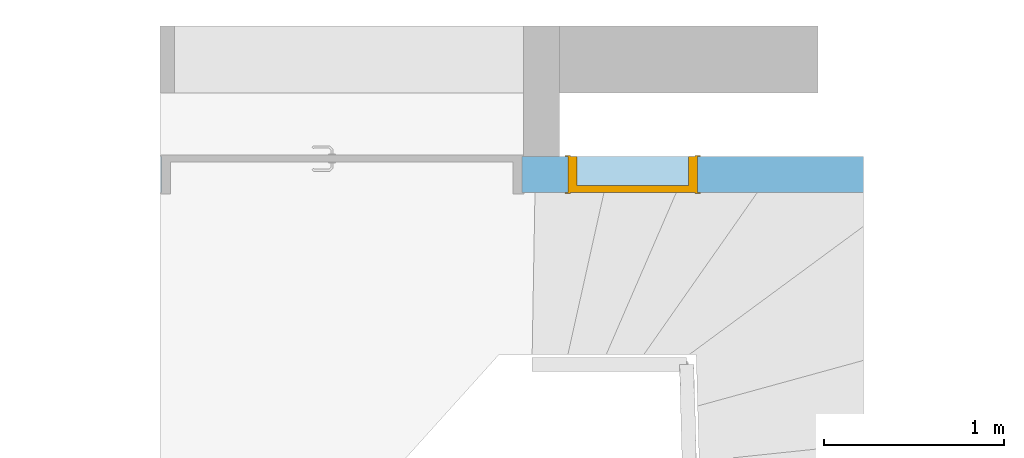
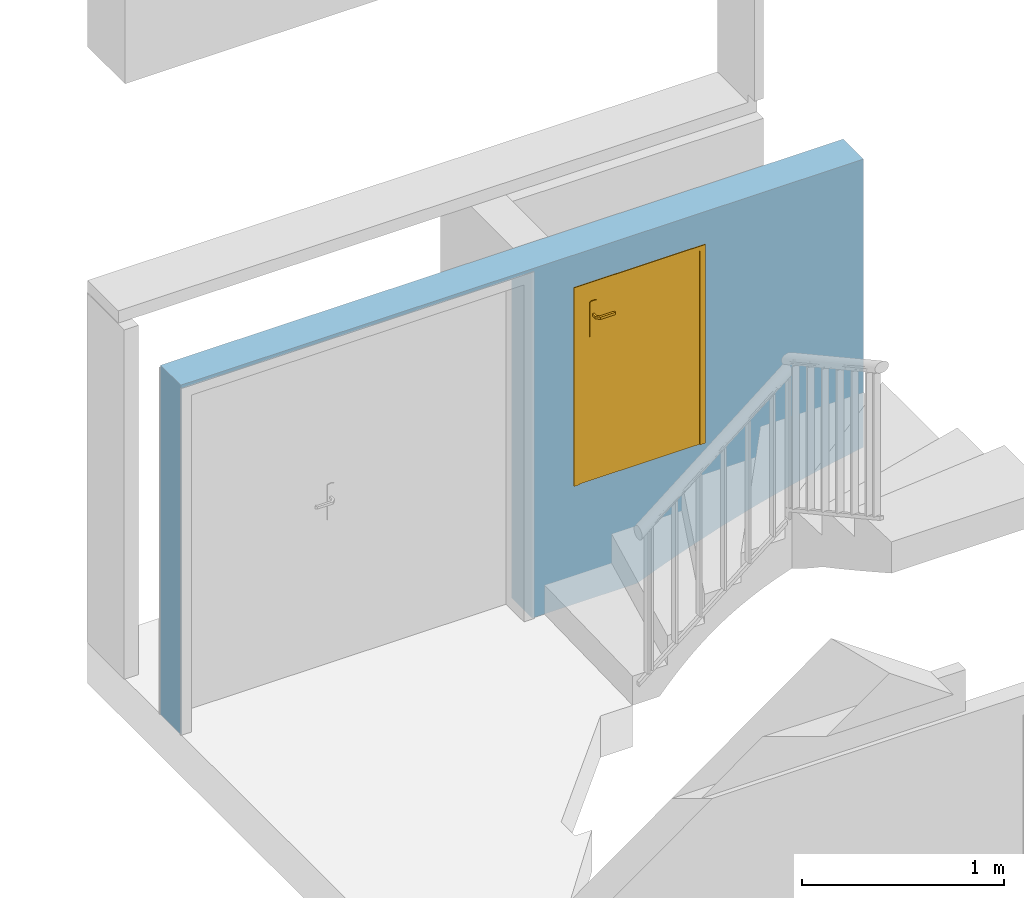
# One storey, part 6 of 13: 1 door, 2 openings, plus 1 element that does not belong to this part.
"""IFC4 building model written with IfcOpenShell, lengths in metres."""

from ifc_helpers import new_model, entity, si_unit, converted_unit, derived_unit, direction, frame, origin, place, context, subcontext, project, spatial, indexed_curve, outline, extrude, polygons, source, transform, mapped, material, material_list, layer, layer_set, constituent, constituent_set, type_object, type_shapes, element, fill, save


model = new_model("IFC4")

# Units and contexts
model_context = context("Model", 3, precision=1e-05, world=origin(), true_north=direction((6.12303176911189e-17, 1.0)))
body_context = subcontext(model_context, "Body", "Model", "MODEL_VIEW")
ifc_project = project(units=[si_unit("LENGTHUNIT", "METRE"), si_unit("AREAUNIT", "SQUARE_METRE"), si_unit("VOLUMEUNIT", "CUBIC_METRE"), converted_unit("PLANEANGLEUNIT", "DEGREE", entity("IfcRatioMeasure", 0.0174532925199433), si_unit("PLANEANGLEUNIT", "RADIAN"), dimensions=[0, 0, 0, 0, 0, 0, 0]), si_unit("MASSUNIT", "GRAM", prefix="KILO"), derived_unit("MASSDENSITYUNIT", [(si_unit("MASSUNIT", "GRAM", prefix="KILO"), 1), (si_unit("LENGTHUNIT", "METRE"), -3)]), derived_unit("MOMENTOFINERTIAUNIT", [(si_unit("LENGTHUNIT", "METRE"), 4)]), si_unit("TIMEUNIT", "SECOND"), si_unit("FREQUENCYUNIT", "HERTZ"), si_unit("THERMODYNAMICTEMPERATUREUNIT", "DEGREE_CELSIUS"), derived_unit("THERMALTRANSMITTANCEUNIT", [(si_unit("MASSUNIT", "GRAM", prefix="KILO"), 1), (si_unit("THERMODYNAMICTEMPERATUREUNIT", "KELVIN"), -1), (si_unit("TIMEUNIT", "SECOND"), -3)]), derived_unit("VOLUMETRICFLOWRATEUNIT", [(si_unit("LENGTHUNIT", "METRE"), 3), (si_unit("TIMEUNIT", "SECOND"), -1)]), si_unit("ELECTRICCURRENTUNIT", "AMPERE"), si_unit("ELECTRICVOLTAGEUNIT", "VOLT"), si_unit("POWERUNIT", "WATT"), si_unit("FORCEUNIT", "NEWTON", prefix="KILO"), si_unit("ILLUMINANCEUNIT", "LUX"), si_unit("LUMINOUSFLUXUNIT", "LUMEN"), si_unit("LUMINOUSINTENSITYUNIT", "CANDELA"), derived_unit("USERDEFINED", [(si_unit("MASSUNIT", "GRAM", prefix="KILO"), -1), (si_unit("LENGTHUNIT", "METRE"), -2), (si_unit("TIMEUNIT", "SECOND"), 3), (si_unit("LUMINOUSFLUXUNIT", "LUMEN"), 1)]), derived_unit("LINEARVELOCITYUNIT", [(si_unit("LENGTHUNIT", "METRE"), 1), (si_unit("TIMEUNIT", "SECOND"), -1)]), si_unit("PRESSUREUNIT", "PASCAL"), derived_unit("USERDEFINED", [(si_unit("LENGTHUNIT", "METRE"), -2), (si_unit("MASSUNIT", "GRAM", prefix="KILO"), 1), (si_unit("TIMEUNIT", "SECOND"), -2)]), derived_unit("LINEARFORCEUNIT", [(si_unit("MASSUNIT", "GRAM", prefix="KILO"), 1), (si_unit("LENGTHUNIT", "METRE"), 1), (si_unit("TIMEUNIT", "SECOND"), -2), (si_unit("LENGTHUNIT", "METRE"), -1)]), derived_unit("PLANARFORCEUNIT", [(si_unit("MASSUNIT", "GRAM", prefix="KILO"), 1), (si_unit("LENGTHUNIT", "METRE"), 1), (si_unit("TIMEUNIT", "SECOND"), -2), (si_unit("LENGTHUNIT", "METRE"), -2)])], contexts=[model_context])

# Site, building, storey
site_placement = place(None, origin())
site = spatial("IfcSite", under=ifc_project, at=site_placement, Name="Default", CompositionType="ELEMENT")
building_placement = place(site_placement, origin())
building = spatial("IfcBuilding", under=site, at=building_placement, Name="HOTEL CONSULAIRE BOULOGNE SUR MER", CompositionType="ELEMENT")
storey_placement = place(building_placement, frame((0.0, 0.0, -1.40419978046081)))
storey = spatial("IfcBuildingStorey", under=building, at=storey_placement, Name="Demi-niveau", CompositionType="ELEMENT", Elevation=-1.40419978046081)

# Wall, openings, door
ifc_material_1 = material(Name="Mur par défaut", Category="Divers")
ifc_layer = layer(ifc_material_1, 0.2, Name="Mur par défaut", Category="Divers")
ifc_layer_set = layer_set([ifc_layer], Name="Mur de base:Générique - Ext. 200 mm")
wall_type = type_object("IfcWallType", Name="Mur de base:Générique - Ext. 200 mm", PredefinedType="NOTDEFINED", material=ifc_layer_set)
wall_placement = place(storey_placement, frame((-1.25942350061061, -10.6027043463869, -0.0015952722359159), z_axis=(0.0, 0.0, 1.0), x_axis=(-1.0, 0.0, 0.0)))
wall = element("IfcWall", 1, at=wall_placement, inside=storey, type_object=wall_type, material=ifc_layer_set, Name="Mur de base:Générique - Ext. 200 mm", ObjectType="Mur de base:Générique - Ext. 200 mm", PredefinedType="NOTDEFINED", context=body_context, shape_type="Tessellation", body=[
    polygons([(3.90034967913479, -0.100000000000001, 0.0015952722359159), (3.89432853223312, -0.100000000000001, 0.0015952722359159), (3.89432853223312, 0.0999999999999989, 0.0015952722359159), (3.90034967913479, 0.0999999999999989, 0.0015952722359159), (3.90034967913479, -0.100000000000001, 2.11132447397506), (1.88530555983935, -0.100000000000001, 2.11132447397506), (1.68530555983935, -0.100000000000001, 2.11132447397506), (6.071109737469e-16, -0.100000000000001, 2.11132447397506), (4.17560618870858e-14, -0.100000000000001, 0.370901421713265), (0.197501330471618, -0.100000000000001, 0.333224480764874), (0.393849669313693, -0.100000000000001, 0.289938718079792), (0.588855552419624, -0.100000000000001, 0.240965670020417), (0.811796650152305, -0.100000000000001, 0.176265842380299), (1.03187720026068, -0.0999999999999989, 0.102419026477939), (1.16290735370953, -0.100000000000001, 0.0535397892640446), (1.29275283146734, -0.100000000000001, 0.0015952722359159), (1.68530555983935, -0.100000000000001, 0.0015952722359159), (1.88530555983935, -0.100000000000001, 0.0015952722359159), (1.89432853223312, -0.100000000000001, 0.0015952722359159), (1.89432853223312, -0.100000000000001, 2.08659527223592), (3.89432853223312, -0.100000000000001, 2.08659527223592), (0.92029275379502, -0.100000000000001, 0.716595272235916), (0.92029275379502, -0.100000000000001, 1.90159527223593), (1.64029275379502, -0.0999999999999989, 1.90159527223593), (1.64029275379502, -0.0999999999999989, 0.716595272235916), (3.89432853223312, 0.0999999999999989, 2.08659527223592), (1.89432853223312, 0.0999999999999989, 2.08659527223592), (1.89432853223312, 0.0999999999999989, 0.0015952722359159), (1.29275283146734, 0.0999999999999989, 0.0015952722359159), (1.16290735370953, 0.0999999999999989, 0.0535397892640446), (1.03187720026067, 0.100000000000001, 0.102419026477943), (0.811796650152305, 0.0999999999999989, 0.176265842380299), (0.588885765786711, 0.0999999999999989, 0.2410792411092), (0.393849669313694, 0.0999999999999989, 0.289938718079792), (0.19750133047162, 0.0999999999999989, 0.333224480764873), (4.21648507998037e-14, 0.0999999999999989, 0.370901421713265), (-6.69672428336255e-17, 0.0999999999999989, 2.11132447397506), (3.90034967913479, 0.0999999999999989, 2.11132447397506), (0.920292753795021, 0.0999999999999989, 1.90159527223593), (0.920292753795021, 0.0999999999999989, 0.716595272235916), (1.64029275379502, 0.100000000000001, 0.716595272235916), (1.64029275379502, 0.100000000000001, 1.90159527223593)], [[[1, 2, 3, 4]], [[26, 21, 20, 27]], [[24, 23, 39, 42]], [[19, 18, 17, 16, 29, 28]], [[19, 20, 21, 2, 1, 5, 6, 7, 8, 9, 10, 11, 12, 13, 14, 15, 16, 17, 18], [25, 22, 23, 24]], [[38, 4, 3, 26, 27, 28, 29, 30, 31, 32, 33, 34, 35, 36, 37], [39, 40, 41, 42]], [[3, 2, 21, 26]], [[25, 24, 42, 41]], [[37, 36, 9, 8]], [[27, 20, 19, 28]], [[23, 22, 40, 39]], [[1, 4, 38, 5]], [[22, 25, 41, 40]], [[7, 6, 5, 38, 37, 8]], [[36, 35, 10, 9]], [[35, 34, 11, 10]], [[33, 12, 11]], [[11, 34, 33]], [[33, 13, 12]], [[32, 13, 33]], [[31, 14, 13, 32]], [[31, 30, 15, 14]], [[29, 16, 15, 30]]], closed=True),
])
opening_1_placement = place(wall_placement, frame((3.89432853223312, 0.0999999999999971, 0.0015952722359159)))
element("IfcOpeningElement", 2, at=opening_1_placement, cuts=wall, Name="Double (R):1.93x2.05 pvc blanc:1", ObjectType="Opening", PredefinedType="OPENING", context=body_context, shape_type="SweptSolid", body=[
    extrude(outline(indexed_curve([(0.0, -6.50100268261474e-30), (2.08500000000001, -6.50100268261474e-30), (2.08500000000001, 2.0), (0.0, 2.0), (0.0, -6.50100268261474e-30)], self_intersect=False)), frame((0.0, 0.0, 0.0), z_axis=(0.0, -1.0, 0.0), x_axis=(0.0, 0.0, 1.0)), (0.0, 0.0, 1.0), 0.2),
])
opening_2_placement = place(wall_placement, frame((0.920292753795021, -0.0999999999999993, 0.716595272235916)))
opening_2 = element("IfcOpeningElement", 3, at=opening_2_placement, cuts=wall, Name="Int. Simple:0.65x1.25:1", ObjectType="Opening", PredefinedType="OPENING", context=body_context, shape_type="SweptSolid", body=[
    extrude(outline(indexed_curve([(0.0, -6.44397634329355e-30), (1.18500000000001, -6.44397634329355e-30), (1.18500000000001, 0.719999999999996), (0.0, 0.719999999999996), (0.0, -6.44397634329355e-30)], self_intersect=False)), frame((0.0, 0.0, 0.0), z_axis=(0.0, 1.0, 0.0), x_axis=(0.0, 0.0, 1.0)), (0.0, 0.0, 1.0), 0.2),
])
ifc_material_2 = material(Name="Finition Peinture - Blanc satiné", Category="Peinture")
ifc_constituent_1 = constituent(ifc_material_2, Name="Finition Peinture - Blanc satiné", Category="Matériaux")
ifc_material_3 = material(Name="Bois - Panneau de porte", Category="Bois")
ifc_constituent_2 = constituent(ifc_material_3, Name="Bois - Panneau de porte", Category="Matériaux")
ifc_material_4 = material(Name="Bois - Cadre de porte", Category="Bois")
ifc_constituent_3 = constituent(ifc_material_4, Name="Bois - Cadre de porte", Category="Matériaux")
ifc_constituent_set = constituent_set(constituents=[ifc_constituent_1, ifc_constituent_2, ifc_constituent_3], Name="MaterialConstituentSet")
ifc_material_list = material_list([ifc_material_3, ifc_material_4, ifc_material_4, ifc_material_2])
door_type = type_object("IfcDoorType", Name="Int. Simple:0.65x1.25", OperationType="NOTDEFINED", PredefinedType="DOOR", material=ifc_material_list)
shared_shape = source(origin(), body_context, "Body", "Tessellation", [
    polygons([(0.0750000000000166, -0.00500000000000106, 0.870000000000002), (0.0846472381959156, -0.00500000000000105, 0.866003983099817), (0.0950000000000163, -0.00500000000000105, 0.86464101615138), (0.105352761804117, -0.00500000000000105, 0.866003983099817), (0.115000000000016, -0.00500000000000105, 0.870000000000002), (0.115000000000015, -0.00500000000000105, 1.08), (0.105352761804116, -0.00500000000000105, 1.08399601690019), (0.0950000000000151, -0.00500000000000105, 1.08535898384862), (0.0846472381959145, -0.00500000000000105, 1.08399601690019), (0.0750000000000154, -0.00500000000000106, 1.08), (0.0750000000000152, -1.08286712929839e-15, 0.870000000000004), (0.0750000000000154, -1.08286712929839e-15, 1.08), (0.0846472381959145, -1.06594733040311e-15, 1.08399601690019), (0.0950000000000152, -1.06594733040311e-15, 1.08535898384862), (0.105352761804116, -1.06594733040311e-15, 1.08399601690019), (0.115000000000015, -1.06594733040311e-15, 1.08), (0.115000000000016, -1.06594733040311e-15, 0.870000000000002), (0.105352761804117, -1.06594733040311e-15, 0.866003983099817), (0.0950000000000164, -1.06594733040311e-15, 0.86464101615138), (0.0846472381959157, -1.06594733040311e-15, 0.866003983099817)], [[[4, 5, 6, 7, 8, 9, 10, 1, 2, 3]], [[15, 16, 17, 18, 19, 20, 11, 12, 13, 14]], [[11, 20, 2, 1]], [[2, 20, 19, 3]], [[19, 18, 4, 3]], [[18, 17, 5, 4]], [[6, 5, 17, 16]], [[16, 15, 7, 6]], [[7, 15, 14, 8]], [[14, 13, 9, 8]], [[13, 12, 10, 9]], [[1, 10, 12, 11]]], closed=True),
    polygons([(0.115000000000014, 0.0399999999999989, 1.08), (0.105352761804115, 0.0399999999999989, 1.08399601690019), (0.0950000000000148, 0.0399999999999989, 1.08535898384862), (0.0846472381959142, 0.0399999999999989, 1.08399601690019), (0.0750000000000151, 0.0399999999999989, 1.08), (0.0750000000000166, 0.0399999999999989, 0.870000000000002), (0.0846472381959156, 0.0399999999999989, 0.866003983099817), (0.0950000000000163, 0.0399999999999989, 0.86464101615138), (0.105352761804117, 0.0399999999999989, 0.866003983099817), (0.115000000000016, 0.0399999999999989, 0.870000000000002), (0.115000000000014, 0.0449999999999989, 1.08), (0.115000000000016, 0.0449999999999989, 0.870000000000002), (0.105352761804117, 0.0449999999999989, 0.866003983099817), (0.0950000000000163, 0.0449999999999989, 0.86464101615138), (0.0846472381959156, 0.0449999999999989, 0.866003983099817), (0.075000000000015, 0.0449999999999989, 0.870000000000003), (0.0750000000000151, 0.0449999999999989, 1.08), (0.0846472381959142, 0.0449999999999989, 1.08399601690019), (0.0950000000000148, 0.0449999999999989, 1.08535898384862), (0.105352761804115, 0.0449999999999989, 1.08399601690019)], [[[9, 10, 1, 2, 3, 4, 5, 6, 7, 8]], [[20, 11, 12, 13, 14, 15, 16, 17, 18, 19]], [[11, 20, 2, 1]], [[2, 20, 19, 3]], [[19, 18, 4, 3]], [[18, 17, 5, 4]], [[6, 5, 17, 16]], [[16, 15, 7, 6]], [[7, 15, 14, 8]], [[14, 13, 9, 8]], [[13, 12, 10, 9]], [[1, 10, 12, 11]]], closed=True),
    polygons([(0.0889999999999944, -0.00500000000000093, 1.007), (0.0929747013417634, -0.00500000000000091, 1.00778044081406), (0.0970252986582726, -0.00500000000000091, 1.00778044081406), (0.101000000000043, -0.00500000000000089, 1.00699999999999), (0.101000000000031, -0.00500000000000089, 0.993000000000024), (0.0970252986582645, -0.00500000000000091, 0.992219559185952), (0.0929747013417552, -0.00500000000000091, 0.99221955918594), (0.0889999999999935, -0.00500000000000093, 0.992999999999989), (0.0889999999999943, -0.0326509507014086, 1.007), (0.0929747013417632, -0.0310045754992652, 1.00778044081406), (0.0970252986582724, -0.0293267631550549, 1.00778044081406), (0.101000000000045, -0.0276803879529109, 1.007), (0.101000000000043, -0.0276803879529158, 0.993000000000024), (0.0970252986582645, -0.0293267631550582, 0.992219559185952), (0.0929747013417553, -0.0310045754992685, 0.99221955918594), (0.0889999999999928, -0.0326509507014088, 0.992999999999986), (0.107377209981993, -0.0510281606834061, 1.007), (0.109023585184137, -0.0470534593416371, 1.00778044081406), (0.110701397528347, -0.0430028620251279, 1.00778044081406), (0.112347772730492, -0.0390281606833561, 1.007), (0.112347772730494, -0.0390281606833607, 0.993000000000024), (0.110701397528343, -0.0430028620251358, 0.992219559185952), (0.109023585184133, -0.0470534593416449, 0.99221955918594), (0.107377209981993, -0.0510281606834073, 0.992999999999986), (0.195018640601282, -0.0510281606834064, 1.00699999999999), (0.195018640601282, -0.051028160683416, 0.992999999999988), (0.195018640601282, -0.0470534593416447, 0.99221955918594), (0.195018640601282, -0.0430028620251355, 0.992219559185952), (0.195018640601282, -0.0390281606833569, 0.993000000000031), (0.195018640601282, -0.0390281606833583, 1.007), (0.195018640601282, -0.0430028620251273, 1.00778044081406), (0.195018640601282, -0.0470534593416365, 1.00778044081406), (0.147307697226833, -0.0510281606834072, 1.007), (0.1528600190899, -0.045028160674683, 1.0078786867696), (0.153683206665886, -0.039028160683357, 1.007), (0.147307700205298, -0.0510281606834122, 0.992999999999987), (0.152860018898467, -0.0450281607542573, 0.992121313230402), (0.153683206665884, -0.0390281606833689, 0.993000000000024)], [[[2, 3, 4, 5, 6, 7, 8, 1]], [[21, 20, 35, 30, 29, 38]], [[9, 10, 2, 1]], [[10, 18, 19, 11, 3, 2]], [[11, 12, 4, 3]], [[5, 4, 12, 13]], [[26, 27, 28, 29, 30, 31, 32, 25]], [[13, 14, 6, 5]], [[14, 22, 23, 15, 7, 6]], [[15, 16, 8, 7]], [[1, 8, 16, 9]], [[17, 18, 10, 9]], [[19, 20, 12, 11]], [[13, 12, 20, 21]], [[21, 22, 14, 13]], [[23, 24, 16, 15]], [[9, 16, 24, 17]], [[33, 32, 34]], [[25, 32, 33]], [[18, 17, 33]], [[34, 35, 19]], [[20, 19, 35]], [[35, 31, 30]], [[32, 31, 34]], [[31, 35, 34]], [[18, 33, 34]], [[18, 34, 19]], [[38, 28, 37]], [[36, 37, 27]], [[21, 38, 22]], [[38, 29, 28]], [[26, 36, 27]], [[24, 23, 36]], [[36, 23, 37]], [[23, 22, 37]], [[22, 38, 37]], [[27, 37, 28]], [[17, 24, 36, 26, 25, 33]]], closed=True),
    polygons([(0.101000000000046, 0.0449999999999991, 0.993000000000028), (0.101000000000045, 0.0449999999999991, 1.007), (0.0970252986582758, 0.0449999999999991, 1.00778044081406), (0.0929747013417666, 0.0449999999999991, 1.00778044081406), (0.0889999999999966, 0.044999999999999, 1.007), (0.0889999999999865, 0.044999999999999, 0.992999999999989), (0.0929747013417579, 0.0449999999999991, 0.99221955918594), (0.0970252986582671, 0.0449999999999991, 0.992219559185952), (0.101000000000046, 0.067485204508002, 0.993000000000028), (0.101000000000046, 0.0674852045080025, 1.007), (0.0970252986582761, 0.0691315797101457, 1.00778044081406), (0.0929747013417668, 0.070809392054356, 1.00778044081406), (0.0889999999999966, 0.0724557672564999, 1.007), (0.0889999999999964, 0.072455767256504, 0.992999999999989), (0.0929747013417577, 0.0708093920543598, 0.99221955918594), (0.0970252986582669, 0.0691315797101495, 0.992219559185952), (0.112485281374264, 0.0789704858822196, 0.993000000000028), (0.112485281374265, 0.0789704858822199, 1.007), (0.110838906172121, 0.0829451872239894, 1.00778044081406), (0.109161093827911, 0.0869957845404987, 1.00778044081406), (0.107514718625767, 0.0909704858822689, 1.007), (0.10751471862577, 0.090970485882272, 0.992999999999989), (0.109161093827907, 0.0869957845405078, 0.99221955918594), (0.110838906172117, 0.0829451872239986, 0.992219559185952), (0.19504578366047, 0.0789704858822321, 0.993000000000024), (0.19504578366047, 0.0829451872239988, 0.992219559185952), (0.19504578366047, 0.086995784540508, 0.99221955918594), (0.19504578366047, 0.0909704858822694, 0.992999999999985), (0.19504578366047, 0.0909704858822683, 1.007), (0.19504578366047, 0.0869957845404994, 1.00778044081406), (0.19504578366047, 0.0829451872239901, 1.00778044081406), (0.19504578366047, 0.0789704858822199, 1.007), (0.147445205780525, 0.0909704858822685, 1.007), (0.15294234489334, 0.0849704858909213, 1.0078786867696), (0.153765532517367, 0.0789704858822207, 1.007), (0.147445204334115, 0.0909704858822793, 0.992999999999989), (0.152942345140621, 0.0849704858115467, 0.992121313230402), (0.153765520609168, 0.0789704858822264, 0.993000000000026)], [[[4, 5, 6, 7, 8, 1, 2, 3]], [[18, 17, 38, 25, 32, 35]], [[2, 1, 9, 10]], [[25, 26, 27, 28, 29, 30, 31, 32]], [[10, 11, 3, 2]], [[11, 19, 20, 12, 4, 3]], [[12, 13, 5, 4]], [[6, 5, 13, 14]], [[14, 15, 7, 6]], [[15, 23, 24, 16, 8, 7]], [[16, 9, 1, 8]], [[10, 9, 17, 18]], [[18, 19, 11, 10]], [[20, 21, 13, 12]], [[14, 13, 21, 22]], [[22, 23, 15, 14]], [[24, 17, 9, 16]], [[35, 31, 34]], [[33, 34, 30]], [[18, 35, 19]], [[35, 32, 31]], [[29, 33, 30]], [[21, 20, 33]], [[33, 20, 34]], [[20, 19, 34]], [[19, 35, 34]], [[30, 34, 31]], [[21, 33, 29, 28, 36, 22]], [[36, 27, 37]], [[28, 27, 36]], [[23, 22, 36]], [[37, 38, 24]], [[17, 24, 38]], [[38, 26, 25]], [[27, 26, 37]], [[26, 38, 37]], [[23, 36, 37]], [[23, 37, 24]]], closed=True),
    polygons([(0.0350000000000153, 0.0400000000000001, 1.15), (0.685000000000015, 0.0400000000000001, 1.15), (0.685000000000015, 0.0400000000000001, 0.0), (0.0350000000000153, 0.0400000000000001, 0.0), (0.0350000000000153, 6.76791955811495e-17, 1.15), (0.0350000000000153, 6.76791955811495e-17, 0.0), (0.685000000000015, 6.76791955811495e-17, 0.0), (0.685000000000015, 6.76791955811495e-17, 1.15)], [[[4, 1, 2, 3]], [[7, 8, 5, 6]], [[2, 1, 5, 8]], [[3, 2, 8, 7]], [[4, 3, 7, 6]], [[1, 4, 6, 5]]], closed=True),
    polygons([(1.35358391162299e-16, 0.0, 0.0), (1.35358391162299e-16, 0.200000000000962, 0.0), (0.0500000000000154, 0.200000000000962, 0.0), (0.0500000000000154, 0.040000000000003, 0.0), (0.0350000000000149, 0.040000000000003, 0.0), (0.0350000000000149, 0.0, 0.0), (1.35358391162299e-16, 0.0, 1.18500000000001), (1.35358391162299e-16, 0.200000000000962, 1.18500000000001), (0.719999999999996, 0.200000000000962, 1.18500000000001), (0.719999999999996, 0.200000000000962, 0.0), (0.669999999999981, 0.200000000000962, -4.03399441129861e-24), (0.669999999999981, 0.200000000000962, 1.135), (0.0500000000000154, 0.200000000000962, 1.135), (0.0500000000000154, 0.040000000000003, 1.135), (0.669999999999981, 0.040000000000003, 1.135), (0.669999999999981, 0.040000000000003, 0.0), (0.684999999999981, 0.040000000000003, 4.03399441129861e-24), (0.684999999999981, 0.040000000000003, 1.15), (0.035000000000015, 0.040000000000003, 1.15), (0.035000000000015, 0.0, 1.15), (0.684999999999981, 0.0, 1.15), (0.684999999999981, 0.0, -1.0523444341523e-24), (0.719999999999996, 0.0, -7.36641390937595e-25), (0.719999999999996, 0.0, 1.18500000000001)], [[[5, 6, 1, 2, 3, 4]], [[11, 10, 23, 22, 17, 16]], [[14, 13, 12, 15]], [[20, 19, 18, 21]], [[2, 1, 7, 8]], [[15, 12, 11, 16]], [[21, 18, 17, 22]], [[3, 2, 8, 9, 10, 11, 12, 13]], [[4, 3, 13, 14]], [[6, 5, 19, 20]], [[9, 24, 23, 10]], [[16, 17, 18, 19, 5, 4, 14, 15]], [[22, 23, 24, 7, 1, 6, 20, 21]], [[8, 7, 24, 9]]], closed=True),
    polygons([(0.0150000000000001, 0.200000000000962, 0.0), (-0.0149999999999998, 0.200000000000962, 0.0), (-0.0149999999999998, 0.205000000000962, 0.0), (0.0150000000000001, 0.205000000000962, 0.0), (0.0150000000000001, 0.200000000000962, 1.17000000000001), (0.704999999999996, 0.200000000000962, 1.17000000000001), (0.704999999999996, 0.200000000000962, 5.68896717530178e-24), (0.734999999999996, 0.200000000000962, 1.55153703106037e-24), (0.734999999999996, 0.200000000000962, 1.20000000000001), (-0.0149999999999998, 0.200000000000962, 1.20000000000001), (-0.0149999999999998, 0.205000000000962, 1.20000000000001), (0.734999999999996, 0.205000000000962, 1.20000000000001), (0.734999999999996, 0.205000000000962, 0.0), (0.704999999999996, 0.205000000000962, 4.03399441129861e-24), (0.704999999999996, 0.205000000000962, 1.17000000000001), (0.0150000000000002, 0.205000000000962, 1.17000000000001)], [[[2, 3, 4, 1]], [[14, 13, 8, 7]], [[5, 16, 15, 6]], [[7, 8, 9, 10, 2, 1, 5, 6]], [[3, 2, 10, 11]], [[6, 15, 14, 7]], [[4, 3, 11, 12, 13, 14, 15, 16]], [[1, 4, 16, 5]], [[12, 9, 8, 13]], [[11, 10, 9, 12]]], closed=True),
    polygons([(0.0150000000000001, -0.00500000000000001, 0.0), (-0.0149999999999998, -0.00500000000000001, 0.0), (-0.0149999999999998, 0.0, 0.0), (0.0150000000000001, 0.0, 0.0), (0.704999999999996, -0.00500000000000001, -1.35358391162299e-16), (0.704999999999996, 0.0, -1.35358391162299e-16), (0.734999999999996, 0.0, -1.35358391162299e-16), (0.734999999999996, -0.00500000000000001, -1.35358391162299e-16), (0.0150000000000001, -0.00500000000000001, 1.17000000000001), (0.704999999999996, -0.00500000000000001, 1.17000000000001), (0.734999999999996, -0.00500000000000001, 1.20000000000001), (-0.0149999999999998, -0.00500000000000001, 1.20000000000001), (-0.0149999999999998, 0.0, 1.20000000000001), (0.734999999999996, 0.0, 1.20000000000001), (0.704999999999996, 0.0, 1.17000000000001), (0.0150000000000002, 0.0, 1.17000000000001)], [[[1, 2, 3, 4]], [[6, 7, 8, 5]], [[9, 16, 15, 10]], [[5, 8, 11, 12, 2, 1, 9, 10]], [[3, 2, 12, 13]], [[10, 15, 6, 5]], [[4, 3, 13, 14, 7, 6, 15, 16]], [[1, 4, 16, 9]], [[14, 11, 8, 7]], [[13, 12, 11, 14]]], closed=True),
])
type_shapes(door_type, [shared_shape])
door_placement = place(opening_2_placement, frame((0.719999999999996, 0.199999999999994, 0.0), z_axis=(0.0, 0.0, 1.0), x_axis=(-1.0, 0.0, 0.0)))
door = element("IfcDoor", 4, at=door_placement, inside=storey, type_object=door_type, material=ifc_constituent_set, Name="Int. Simple:0.65x1.25", ObjectType="Int. Simple:0.65x1.25", OperationType="NOTDEFINED", OverallHeight=1.18500000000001, OverallWidth=0.719999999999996, PredefinedType="DOOR", context=body_context, shape_type="MappedRepresentation", body=[
    mapped(shared_shape, transform((0.0, 0.0, 0.0), scale=1.0)),
])
fill(opening_2, door)

save(model, "model.ifc")
